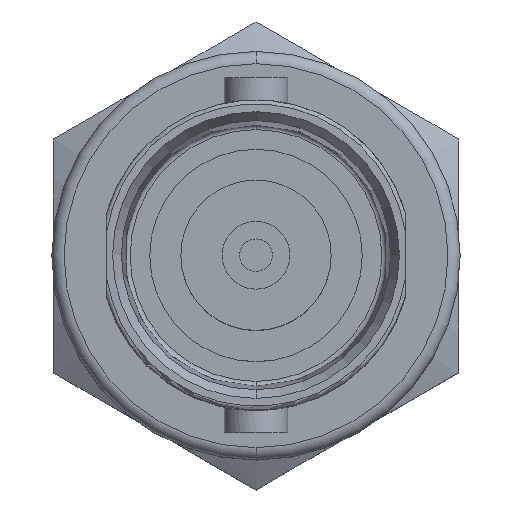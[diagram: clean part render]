
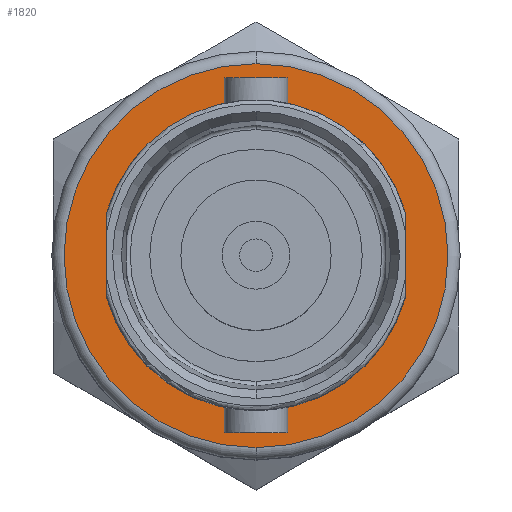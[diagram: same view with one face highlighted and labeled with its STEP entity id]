
A CAD part, top view. The second image highlights one B-rep face of the part: STEP entity #1820.
In plain terms, the highlighted planar face has unit normal (0, 0, 1).
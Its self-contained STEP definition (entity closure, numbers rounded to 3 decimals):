
#270=CARTESIAN_POINT('',(0.,0.,-11.1));
#271=DIRECTION('',(0.,0.,-1.));
#272=DIRECTION('',(0.963,-0.269,0.));
#273=AXIS2_PLACEMENT_3D('',#270,#271,#272);
#283=CARTESIAN_POINT('',(0.,0.,-11.1));
#284=DIRECTION('',(0.,0.,-1.));
#285=DIRECTION('',(-0.963,0.269,0.));
#286=AXIS2_PLACEMENT_3D('',#283,#284,#285);
#422=CARTESIAN_POINT('',(0.,0.,-11.1));
#423=DIRECTION('',(0.,0.,-1.));
#424=DIRECTION('',(0.,1.,0.));
#425=AXIS2_PLACEMENT_3D('',#422,#423,#424);
#427=CARTESIAN_POINT('',(0.,0.,-11.1));
#428=DIRECTION('',(0.,0.,1.));
#429=DIRECTION('',(0.,1.,0.));
#430=AXIS2_PLACEMENT_3D('',#427,#428,#429);
#432=DIRECTION('',(0.,1.,0.));
#433=VECTOR('',#432,2.596);
#434=CARTESIAN_POINT('',(-4.648,-1.298,-11.1));
#435=LINE('',#434,#433);
#436=DIRECTION('',(0.,-1.,0.));
#437=VECTOR('',#436,2.596);
#438=CARTESIAN_POINT('',(4.648,1.298,-11.1));
#439=LINE('',#438,#437);
#1157=CARTESIAN_POINT('',(0.,5.969,-11.1));
#1158=VERTEX_POINT('',#1157);
#1161=CARTESIAN_POINT('',(0.,-5.969,-11.1));
#1162=VERTEX_POINT('',#1161);
#1227=CARTESIAN_POINT('',(4.648,1.298,-11.1));
#1228=CARTESIAN_POINT('',(4.648,-1.298,-11.1));
#1229=VERTEX_POINT('',#1227);
#1230=VERTEX_POINT('',#1228);
#1231=CARTESIAN_POINT('',(-4.648,-1.298,-11.1));
#1232=CARTESIAN_POINT('',(-4.648,1.298,-11.1));
#1233=VERTEX_POINT('',#1231);
#1234=VERTEX_POINT('',#1232);
#1803=CARTESIAN_POINT('',(0.,0.,-11.1));
#1804=DIRECTION('',(0.,0.,-1.));
#1805=DIRECTION('',(0.,-1.,0.));
#1806=AXIS2_PLACEMENT_3D('',#1803,#1804,#1805);
#1807=PLANE('',#1806);
#1809=ORIENTED_EDGE('',*,*,#1808,.T.);
#1811=ORIENTED_EDGE('',*,*,#1810,.F.);
#1812=EDGE_LOOP('',(#1809,#1811));
#1813=FACE_OUTER_BOUND('',#1812,.F.);
#1814=ORIENTED_EDGE('',*,*,#1670,.F.);
#1815=ORIENTED_EDGE('',*,*,#1795,.F.);
#1816=ORIENTED_EDGE('',*,*,#1648,.F.);
#1817=ORIENTED_EDGE('',*,*,#1769,.F.);
#1818=EDGE_LOOP('',(#1814,#1815,#1816,#1817));
#1819=FACE_BOUND('',#1818,.F.);
#274=CIRCLE('',#273,4.826);
#287=CIRCLE('',#286,4.826);
#426=CIRCLE('',#425,5.969);
#431=CIRCLE('',#430,5.969);
#1648=EDGE_CURVE('',#1230,#1233,#274,.T.);
#1670=EDGE_CURVE('',#1234,#1229,#287,.T.);
#1769=EDGE_CURVE('',#1229,#1230,#439,.T.);
#1795=EDGE_CURVE('',#1233,#1234,#435,.T.);
#1808=EDGE_CURVE('',#1158,#1162,#426,.T.);
#1810=EDGE_CURVE('',#1158,#1162,#431,.T.);
#1820=ADVANCED_FACE('',(#1813,#1819),#1807,.F.);
